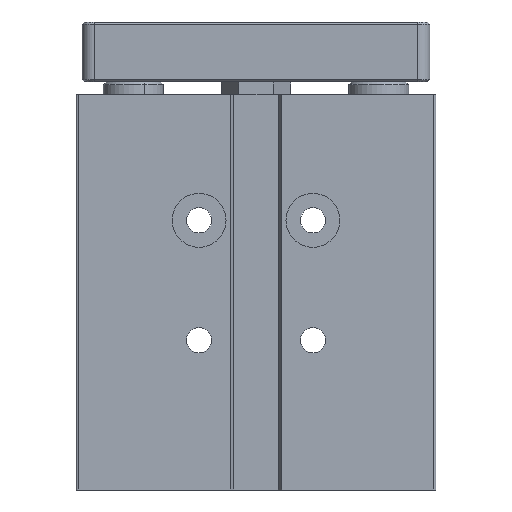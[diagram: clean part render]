
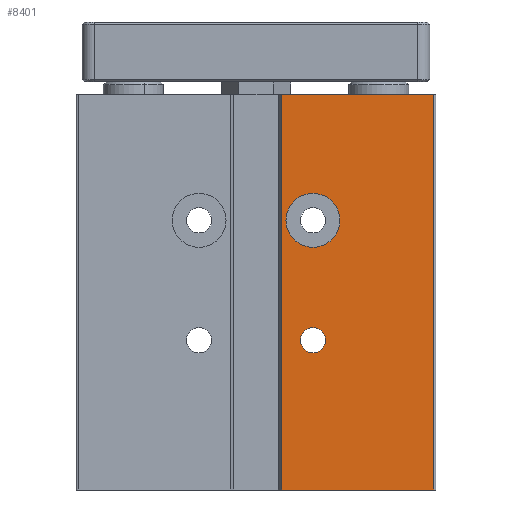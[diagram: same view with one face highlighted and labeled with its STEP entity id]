
A CAD part, front view. The second image highlights one B-rep face of the part: STEP entity #8401.
In plain terms, the highlighted planar face has unit normal (0, -1, 0).
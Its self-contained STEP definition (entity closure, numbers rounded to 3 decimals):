
#30 = EDGE_CURVE ( 'NONE', #20708, #19987, #6165, .T. ) ;
#220 = DIRECTION ( 'NONE',  ( 0., 1., 0. ) ) ;
#278 = CIRCLE ( 'NONE', #20964, 2.1 ) ;
#654 = VECTOR ( 'NONE', #4184, 1000. ) ;
#1379 = VECTOR ( 'NONE', #19626, 1000. ) ;
#1453 = CARTESIAN_POINT ( 'NONE',  ( 9.5, -14., -43.1 ) ) ;
#1611 = EDGE_LOOP ( 'NONE', ( #22709, #22178 ) ) ;
#2706 = AXIS2_PLACEMENT_3D ( 'NONE', #20817, #10877, #10967 ) ;
#3721 = CARTESIAN_POINT ( 'NONE',  ( 29.7, -14., 0. ) ) ;
#3756 = LINE ( 'NONE', #4417, #22864 ) ;
#4184 = DIRECTION ( 'NONE',  ( 1., 0., 0. ) ) ;
#4375 = CARTESIAN_POINT ( 'NONE',  ( 0., -14., 0. ) ) ;
#4385 = CARTESIAN_POINT ( 'NONE',  ( -30., -14., 0. ) ) ;
#4417 = CARTESIAN_POINT ( 'NONE',  ( 29.7, -14., 0. ) ) ;
#4500 = CARTESIAN_POINT ( 'NONE',  ( 9.5, -14., -25.5 ) ) ;
#4830 = DIRECTION ( 'NONE',  ( 0., -1., 0. ) ) ;
#5128 = CARTESIAN_POINT ( 'NONE',  ( -30., -14., -66. ) ) ;
#5722 = DIRECTION ( 'NONE',  ( 0., -1., 0. ) ) ;
#6165 = LINE ( 'NONE', #4375, #654 ) ;
#6482 = DIRECTION ( 'NONE',  ( 0., 0., 1. ) ) ;
#6557 = LINE ( 'NONE', #5128, #1379 ) ;
#7001 = CARTESIAN_POINT ( 'NONE',  ( 9.5, -14., -41. ) ) ;
#7421 = CARTESIAN_POINT ( 'NONE',  ( 29.7, -14., -66. ) ) ;
#7505 = ORIENTED_EDGE ( 'NONE', *, *, #25956, .T. ) ;
#7581 = EDGE_CURVE ( 'NONE', #12205, #20460, #26549, .T. ) ;
#8158 = EDGE_LOOP ( 'NONE', ( #21364, #18401 ) ) ;
#8401 = ADVANCED_FACE ( 'NONE', ( #26472, #14532, #23253 ), #8479, .F. ) ;
#8479 = PLANE ( 'NONE',  #26777 ) ;
#8731 = AXIS2_PLACEMENT_3D ( 'NONE', #7001, #4830, #17422 ) ;
#8854 = DIRECTION ( 'NONE',  ( 0., -1., 0. ) ) ;
#9077 = EDGE_CURVE ( 'NONE', #19987, #11930, #3756, .T. ) ;
#9526 = CARTESIAN_POINT ( 'NONE',  ( 4.3, -14., 0. ) ) ;
#10080 = CARTESIAN_POINT ( 'NONE',  ( 4.3, -14., -66. ) ) ;
#10094 = EDGE_CURVE ( 'NONE', #20460, #12205, #13327, .T. ) ;
#10596 = LINE ( 'NONE', #9526, #26770 ) ;
#10614 = CARTESIAN_POINT ( 'NONE',  ( 9.5, -14., -16.5 ) ) ;
#10846 = CARTESIAN_POINT ( 'NONE',  ( 9.5, -14., -21. ) ) ;
#10877 = DIRECTION ( 'NONE',  ( 0., -1., 0. ) ) ;
#10967 = DIRECTION ( 'NONE',  ( 0., 0., -1. ) ) ;
#11930 = VERTEX_POINT ( 'NONE', #7421 ) ;
#12205 = VERTEX_POINT ( 'NONE', #4500 ) ;
#12811 = EDGE_CURVE ( 'NONE', #15824, #18629, #22526, .T. ) ;
#12945 = DIRECTION ( 'NONE',  ( 0., 0., -1. ) ) ;
#13327 = CIRCLE ( 'NONE', #2706, 4.5 ) ;
#13702 = VERTEX_POINT ( 'NONE', #10080 ) ;
#13925 = CARTESIAN_POINT ( 'NONE',  ( 4.3, -14., 0. ) ) ;
#14347 = EDGE_LOOP ( 'NONE', ( #23972, #19933, #15880, #7505 ) ) ;
#14532 = FACE_BOUND ( 'NONE', #1611, .T. ) ;
#14764 = DIRECTION ( 'NONE',  ( 0., 0., -1. ) ) ;
#15824 = VERTEX_POINT ( 'NONE', #26096 ) ;
#15880 = ORIENTED_EDGE ( 'NONE', *, *, #23816, .F. ) ;
#15967 = CARTESIAN_POINT ( 'NONE',  ( 9.5, -14., -41. ) ) ;
#17422 = DIRECTION ( 'NONE',  ( 0., 0., -1. ) ) ;
#18401 = ORIENTED_EDGE ( 'NONE', *, *, #10094, .F. ) ;
#18629 = VERTEX_POINT ( 'NONE', #1453 ) ;
#19626 = DIRECTION ( 'NONE',  ( 1., 0., 0. ) ) ;
#19933 = ORIENTED_EDGE ( 'NONE', *, *, #30, .F. ) ;
#19987 = VERTEX_POINT ( 'NONE', #3721 ) ;
#20368 = DIRECTION ( 'NONE',  ( 0., 0., 1. ) ) ;
#20460 = VERTEX_POINT ( 'NONE', #10614 ) ;
#20708 = VERTEX_POINT ( 'NONE', #13925 ) ;
#20817 = CARTESIAN_POINT ( 'NONE',  ( 9.5, -14., -21. ) ) ;
#20964 = AXIS2_PLACEMENT_3D ( 'NONE', #15967, #5722, #22205 ) ;
#21364 = ORIENTED_EDGE ( 'NONE', *, *, #7581, .F. ) ;
#22178 = ORIENTED_EDGE ( 'NONE', *, *, #12811, .F. ) ;
#22205 = DIRECTION ( 'NONE',  ( 0., 0., -1. ) ) ;
#22526 = CIRCLE ( 'NONE', #8731, 2.1 ) ;
#22557 = EDGE_CURVE ( 'NONE', #18629, #15824, #278, .T. ) ;
#22709 = ORIENTED_EDGE ( 'NONE', *, *, #22557, .F. ) ;
#22864 = VECTOR ( 'NONE', #14764, 1000. ) ;
#23253 = FACE_OUTER_BOUND ( 'NONE', #14347, .T. ) ;
#23816 = EDGE_CURVE ( 'NONE', #13702, #20708, #10596, .T. ) ;
#23972 = ORIENTED_EDGE ( 'NONE', *, *, #9077, .F. ) ;
#25956 = EDGE_CURVE ( 'NONE', #13702, #11930, #6557, .T. ) ;
#26088 = AXIS2_PLACEMENT_3D ( 'NONE', #10846, #8854, #12945 ) ;
#26096 = CARTESIAN_POINT ( 'NONE',  ( 9.5, -14., -38.9 ) ) ;
#26472 = FACE_BOUND ( 'NONE', #8158, .T. ) ;
#26549 = CIRCLE ( 'NONE', #26088, 4.5 ) ;
#26770 = VECTOR ( 'NONE', #20368, 1000. ) ;
#26777 = AXIS2_PLACEMENT_3D ( 'NONE', #4385, #220, #6482 ) ;
